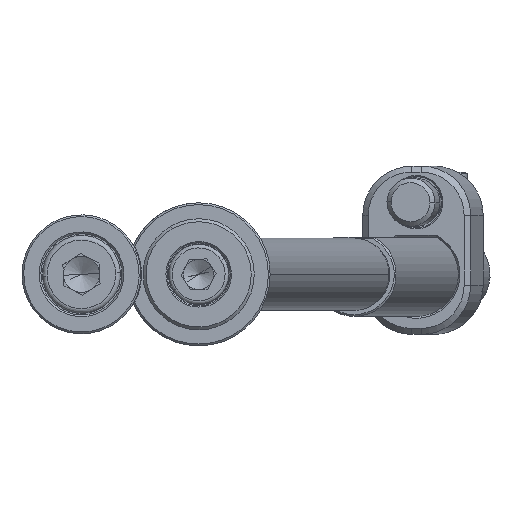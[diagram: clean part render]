
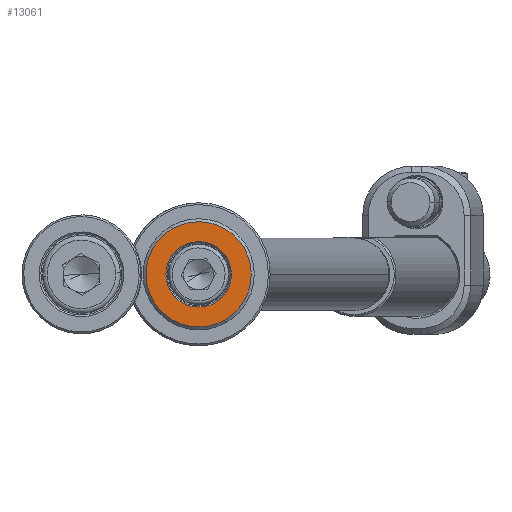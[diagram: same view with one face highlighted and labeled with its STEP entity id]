
A CAD part, front view. The second image highlights one B-rep face of the part: STEP entity #13061.
In plain terms, the highlighted planar face has unit normal (0, -1, 0).
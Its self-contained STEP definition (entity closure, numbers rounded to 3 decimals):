
#174 = CARTESIAN_POINT ( 'NONE',  ( 0., -4., 0. ) ) ;
#380 = DIRECTION ( 'NONE',  ( 0., -1., 0. ) ) ;
#480 = AXIS2_PLACEMENT_3D ( 'NONE', #5796, #1214, #5515 ) ;
#1034 = FACE_OUTER_BOUND ( 'NONE', #8951, .T. ) ;
#1214 = DIRECTION ( 'NONE',  ( 0., -1., 0. ) ) ;
#1228 = EDGE_CURVE ( 'NONE', #8375, #1979, #1898, .T. ) ;
#1813 = CIRCLE ( 'NONE', #13649, 8.75 ) ;
#1898 = CIRCLE ( 'NONE', #2156, 5.45 ) ;
#1979 = VERTEX_POINT ( 'NONE', #6307 ) ;
#2156 = AXIS2_PLACEMENT_3D ( 'NONE', #9939, #4559, #10076 ) ;
#2267 = DIRECTION ( 'NONE',  ( -0.505, 0., 0.863 ) ) ;
#2275 = CARTESIAN_POINT ( 'NONE',  ( -2.753, -4., 4.704 ) ) ;
#2796 = CIRCLE ( 'NONE', #480, 8.75 ) ;
#3217 = VERTEX_POINT ( 'NONE', #7146 ) ;
#4234 = EDGE_CURVE ( 'NONE', #1979, #8375, #5982, .T. ) ;
#4431 = DIRECTION ( 'NONE',  ( 0., 1., 0. ) ) ;
#4559 = DIRECTION ( 'NONE',  ( 0., 1., 0. ) ) ;
#5228 = CARTESIAN_POINT ( 'NONE',  ( 4.42, -4., -7.552 ) ) ;
#5515 = DIRECTION ( 'NONE',  ( -0.505, 0., 0.863 ) ) ;
#5796 = CARTESIAN_POINT ( 'NONE',  ( 0., -4., 0. ) ) ;
#5982 = CIRCLE ( 'NONE', #7821, 5.45 ) ;
#6194 = EDGE_LOOP ( 'NONE', ( #8561, #9625 ) ) ;
#6307 = CARTESIAN_POINT ( 'NONE',  ( 2.753, -4., -4.704 ) ) ;
#7146 = CARTESIAN_POINT ( 'NONE',  ( -4.42, -4., 7.552 ) ) ;
#7409 = ORIENTED_EDGE ( 'NONE', *, *, #10512, .T. ) ;
#7821 = AXIS2_PLACEMENT_3D ( 'NONE', #7918, #12367, #12442 ) ;
#7918 = CARTESIAN_POINT ( 'NONE',  ( 0., -4., 0. ) ) ;
#7919 = AXIS2_PLACEMENT_3D ( 'NONE', #14357, #4431, #2267 ) ;
#8336 = DIRECTION ( 'NONE',  ( -0.505, 0., 0.863 ) ) ;
#8375 = VERTEX_POINT ( 'NONE', #2275 ) ;
#8561 = ORIENTED_EDGE ( 'NONE', *, *, #4234, .T. ) ;
#8951 = EDGE_LOOP ( 'NONE', ( #13417, #7409 ) ) ;
#8961 = EDGE_CURVE ( 'NONE', #3217, #9420, #1813, .T. ) ;
#9420 = VERTEX_POINT ( 'NONE', #5228 ) ;
#9625 = ORIENTED_EDGE ( 'NONE', *, *, #1228, .T. ) ;
#9746 = FACE_BOUND ( 'NONE', #6194, .T. ) ;
#9814 = PLANE ( 'NONE',  #7919 ) ;
#9939 = CARTESIAN_POINT ( 'NONE',  ( 0., -4., 0. ) ) ;
#10076 = DIRECTION ( 'NONE',  ( -0.505, 0., 0.863 ) ) ;
#10512 = EDGE_CURVE ( 'NONE', #9420, #3217, #2796, .T. ) ;
#12367 = DIRECTION ( 'NONE',  ( 0., 1., 0. ) ) ;
#12442 = DIRECTION ( 'NONE',  ( -0.505, 0., 0.863 ) ) ;
#13061 = ADVANCED_FACE ( 'NONE', ( #9746, #1034 ), #9814, .F. ) ;
#13417 = ORIENTED_EDGE ( 'NONE', *, *, #8961, .T. ) ;
#13649 = AXIS2_PLACEMENT_3D ( 'NONE', #174, #380, #8336 ) ;
#14357 = CARTESIAN_POINT ( 'NONE',  ( -4.531, -4., -2.652 ) ) ;
